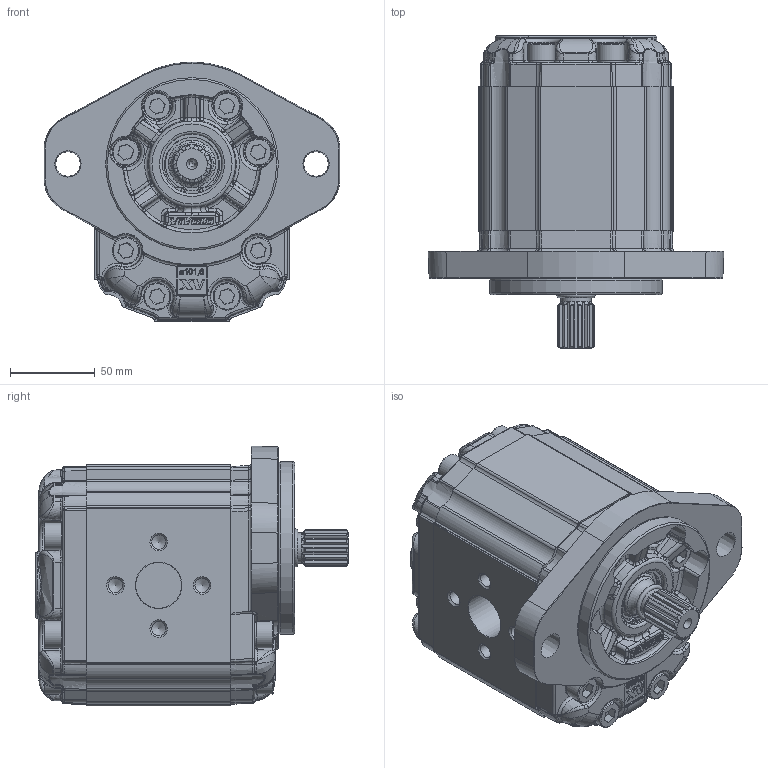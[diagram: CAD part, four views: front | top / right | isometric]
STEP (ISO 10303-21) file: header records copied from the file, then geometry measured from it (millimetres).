
FILE_DESCRIPTION(/* description */ ('Unknown'),/* implementation_level */ '2;1');
FILE_NAME(/* name */ 'X3P7831IBBA',/* time_stamp */ '2021-03-29T11:41:42+02:00',/* author */ ('Unknown'),/* organization */ ('Unknown'),/* preprocessor_version */ 'ST-DEVELOPER v16.7',/* originating_system */ 'Solid Edge',/* authorisation */ 'Unknown');
FILE_SCHEMA (('AUTOMOTIVE_DESIGN {1 0 10303 214 3 1 1}'));
Products named in the file (5): X3P7831IBBA; X3P31; 3I; X3BBH85; XP331-A
Assembly tree (4 placements, depth 2):
  X3P7831IBBA
    X3P31
    3I
    X3BBH85
    XP331-A
Bounding box: 174 x 184.2 x 153 mm (x, y, z)
Volume: 2051272.5 mm3; surface area: 207443.2 mm2
Topology: 4 solids, 21 shells, 3062 faces, 7898 edges, 4993 vertices
Faces by surface type: bspline 1317, plane 876, cylinder 654, cone 105, torus 94, sphere 16
Full cylindrical faces by diameter (mm): 2 x2, 8.376 x8, 10 x16, 15.8 x16, 16 x16, 18 x2, 24.98 x1, 25 x2, 25.968 x1, 27 x2, 28.16 x1, 31.293 x1, 32.742 x1, 34.956 x1, 35 x1, 35.2 x1, 37 x1, 101.6 x1
Entity records: 162906 total; most frequent: CARTESIAN_POINT 82491, ORIENTED_EDGE 15348, EDGE_CURVE 7674, DIRECTION 6756, B_SPLINE_CURVE_WITH_KNOTS 4985, VERTEX_POINT 4932, FACE_BOUND 3354, EDGE_LOOP 3344
